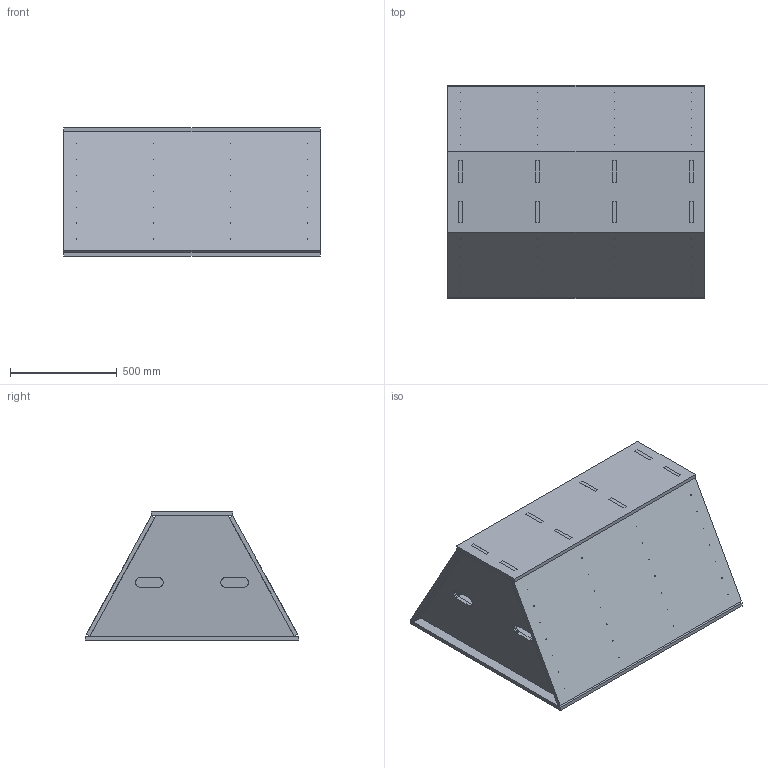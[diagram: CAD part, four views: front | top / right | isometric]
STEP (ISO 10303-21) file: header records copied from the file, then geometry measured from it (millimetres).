
FILE_DESCRIPTION(('Open CASCADE Model'),'2;1');
FILE_NAME('Open CASCADE Shape Model','2026-09-27T09:36:26',('Author'),( 'Open CASCADE'),'Open CASCADE STEP processor 7.9','Open CASCADE 7.9' ,'Unknown');
FILE_SCHEMA(('AUTOMOTIVE_DESIGN { 1 0 10303 214 1 1 1 1 }'));
Length unit declared in the file: millimetre
Products named in the file (9): Trapezoid_600_H600_study; P01_bottom; P02_top; P03_side_negative; P03_side_positive; P04_1; P05_2; P05_3; P04_4
Assembly tree (8 placements, depth 2):
  Trapezoid_600_H600_study
    P01_bottom
    P02_top
    P03_side_negative
    P03_side_positive
    P04_1
    P05_2
    P05_3
    P04_4
Bounding box: 1200 x 1000 x 600 mm (x, y, z)
Volume: 83130744.8 mm3; surface area: 9840967.3 mm2
Topology: 8 solids, 8 shells, 464 faces, 1344 edges, 896 vertices
Faces by surface type: plane 408, cylinder 56
Full cylindrical faces by diameter (mm): 2.5 x56
Entity records: 33228 total; most frequent: CARTESIAN_POINT 5737, DIRECTION 5034, LINE 3808, VECTOR 3808, ORIENTED_EDGE 2688, PCURVE 2688, DEFINITIONAL_REPRESENTATION 2688, EDGE_CURVE 1344
